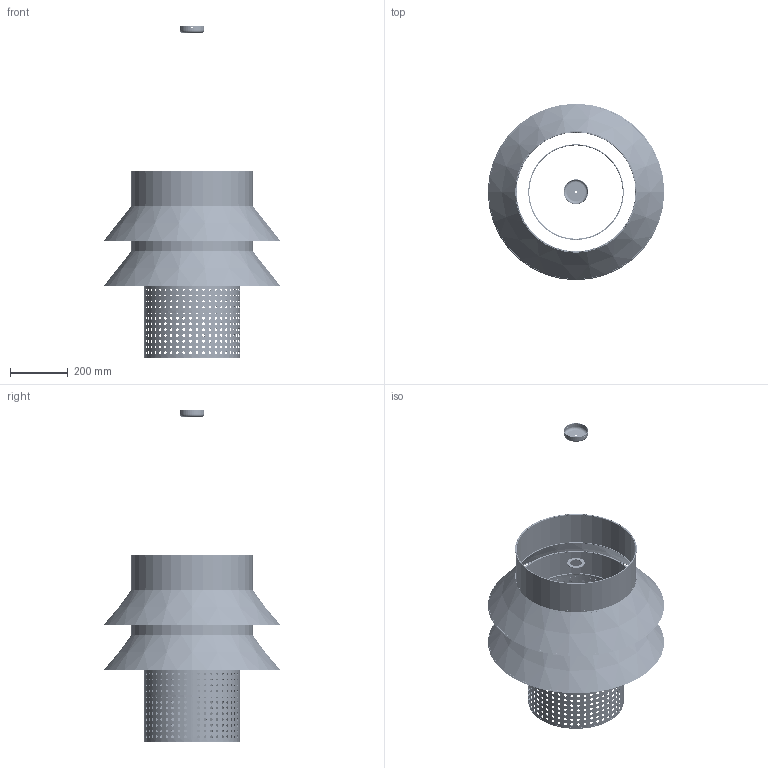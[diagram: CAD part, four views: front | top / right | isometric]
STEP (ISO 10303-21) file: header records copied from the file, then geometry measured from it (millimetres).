
FILE_DESCRIPTION( ( 'STEP AP203' ), '1' );
FILE_NAME( '//srvbf/BF Disegni/MARINELLI FABIO/SATURN/SATURN-S2B Sospensione B 3D.stp', '2020-10-15T13:34:30', ( ' ' ), ( ' ' ), 'XStep 1.0', ' ', ' ' );
FILE_SCHEMA( ( 'CONFIG_CONTROL_DESIGN) ( )' ) );
Length unit declared in the file: metre
Products named in the file (13): Assem1; 1; 2; 3; 4; 5; 6; 7; 8; 9; 10; 11; 12
Bounding box: 611.2 x 611.2 x 1149.5 mm (x, y, z)
Volume: 1441428.4 mm3; surface area: 2918681.6 mm2
Topology: 24 solids, 24 shells, 1286 faces, 3816 edges, 2518 vertices
Faces by surface type: cylinder 1216, plane 40, cone 16, torus 14
Full cylindrical faces by diameter (mm): 1 x2, 3 x2, 5 x4, 10 x1172, 40 x2, 60 x2, 82 x2, 85 x2, 328 x6, 330 x2, 330.2 x4, 331.2 x4, 418 x2, 420 x2, 420.2 x4, 421.2 x4
Entity records: 103832 total; most frequent: CARTESIAN_POINT 88766, EDGE_LOOP 2456, ORIENTED_EDGE 2456, DIRECTION 1420, FACE_OUTER_BOUND 1254, EDGE_CURVE 1228, VERTEX_POINT 1228, FACE_BOUND 1202
